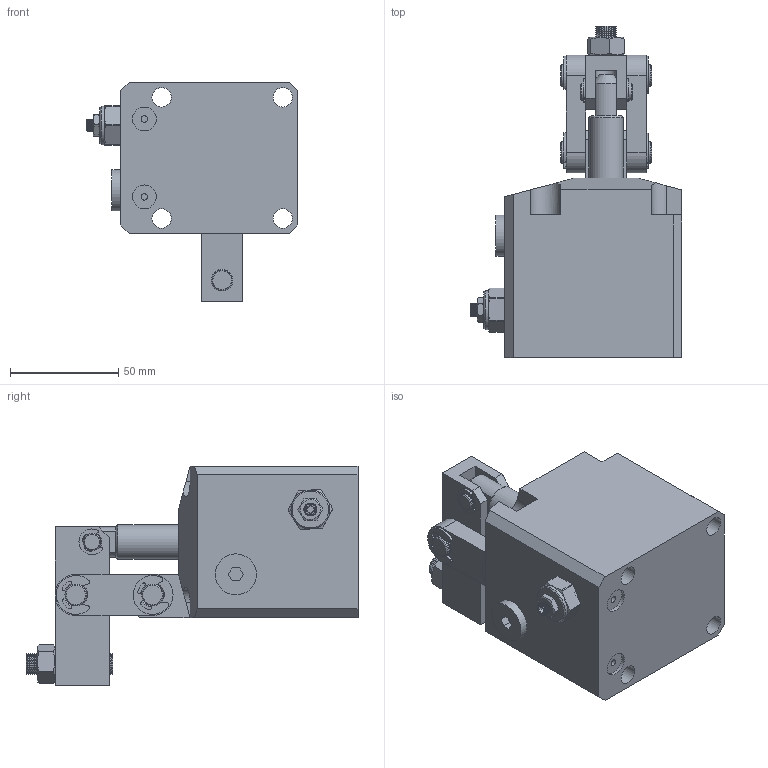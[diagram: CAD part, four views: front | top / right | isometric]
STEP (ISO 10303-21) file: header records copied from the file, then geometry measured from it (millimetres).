
FILE_DESCRIPTION(/* description */ ('STEP AP214'),/* implementation_level */ '2;1');
FILE_NAME(/* name */ 'D:\Vault_2016\Projekty\Clamptek\Hydraulic\CBLU\CBLU-45\STEP\CBLU-45CL.stp',/* time_stamp */ '2021-05-06T12:37:54+02:00',/* author */ ('user'),/* organization */ (''),/* preprocessor_version */ 'ST-DEVELOPER v18.1',/* originating_system */ 'Autodesk Inventor 2021',/* authorisation */ '');
FILE_SCHEMA (('AUTOMOTIVE_DESIGN { 1 0 10303 214 3 1 1 }'));
Length unit declared in the file: millimetre
Products named in the file (15): CBLU-45CL; 45L±¾Ìå_1_1; Áã¼þ3_1; Á¬¸Ë_1; 45Ñ¹°å_1; ¶ÌÏúÖá_1; ³¤ÏúÖá_1; Ð¡µ¯; ´ó¿Û; ÂÝÄ¸; ÂÝË¨M10_1; ÄÚÁù½Ç¶ÂÍ·×
îÐÂ1-4; 20·§Ìå; 20µ÷ËÙ¸Ë; hex thin nuts-grades ab-chamfered gb(GB_FASTENER_NUT_STNAB M6-S)
Assembly tree (20 placements, depth 2):
  CBLU-45CL
    45L±¾Ìå_1_1
    Áã¼þ3_1
    Á¬¸Ë_1  x2
    45Ñ¹°å_1
    ¶ÌÏúÖá_1
    ³¤ÏúÖá_1  x2
    Ð¡µ¯  x2
    ´ó¿Û  x4
    ÂÝÄ¸
    ÂÝË¨M10_1
    ÄÚÁù½Ç¶ÂÍ·×
îÐÂ1-4
    20·§Ìå
    20µ÷ËÙ¸Ë
    hex thin nuts-grades ab-chamfered gb(GB_FASTENER_NUT_STNAB M6-S)
Bounding box: 97.9 x 153.5 x 101.5 mm (x, y, z)
Volume: 457476.9 mm3; surface area: 92974.6 mm2
Topology: 22 solids, 22 shells, 708 faces, 1827 edges, 1189 vertices
Faces by surface type: cylinder 272, plane 214, cone 153, bspline 65, torus 4
Full cylindrical faces by diameter (mm): 2 x3, 2.5 x4, 3 x2, 4.917 x4, 5 x8, 5.3 x1, 6 x13, 6.9 x1, 7 x1, 7.5 x1, 8 x9, 8.376 x1, 8.5 x1, 8.8 x2, 8.9 x2, 9 x6, 10 x53, 11 x3, 11.5 x1, 11.9 x1, 13 x1, 16 x2, 16.8 x1, 18 x1, 19 x1, 45 x2
Entity records: 33987 total; most frequent: CARTESIAN_POINT 18980, ORIENTED_EDGE 3120, DIRECTION 2883, EDGE_CURVE 1560, AXIS2_PLACEMENT_3D 1113, VERTEX_POINT 1014, EDGE_LOOP 672, LINE 657
